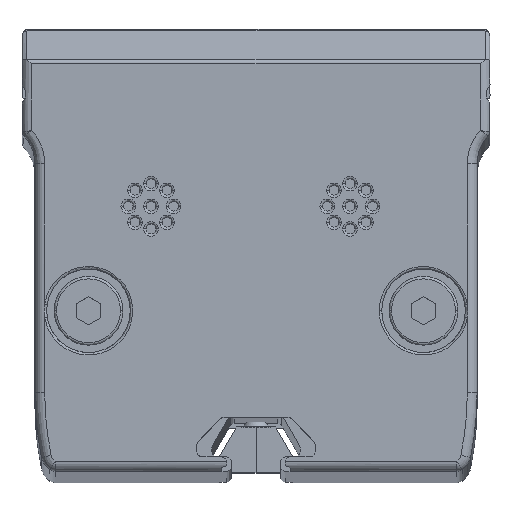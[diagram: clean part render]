
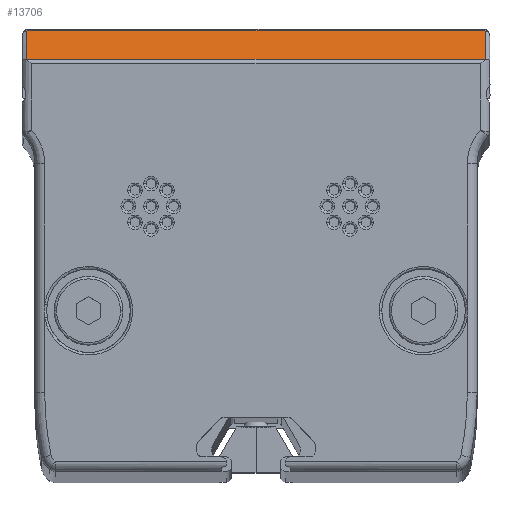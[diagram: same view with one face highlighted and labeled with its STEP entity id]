
A CAD part, top view. The second image highlights one B-rep face of the part: STEP entity #13706.
In plain terms, the highlighted planar face has unit normal (0, 0.858, 0.514).
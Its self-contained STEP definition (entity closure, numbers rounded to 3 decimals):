
#1643 = CARTESIAN_POINT ( 'NONE',  ( 23.215, 22.429, 629.914 ) ) ;
#1780 = DIRECTION ( 'NONE',  ( 0., 0.514, -0.857 ) ) ;
#1839 =( BOUNDED_CURVE ( )  B_SPLINE_CURVE ( 3, ( #22001, #5820, #1643, #21712 ),
 .UNSPECIFIED., .F., .T. ) 
 B_SPLINE_CURVE_WITH_KNOTS ( ( 4, 4 ),
 ( 6.283, 6.283 ),
 .UNSPECIFIED. ) 
 CURVE ( )  GEOMETRIC_REPRESENTATION_ITEM ( )  RATIONAL_B_SPLINE_CURVE ( ( 1., 1., 1., 1. ) ) 
 REPRESENTATION_ITEM ( '' )  );
#1908 = EDGE_CURVE ( 'NONE', #20321, #6759, #14331, .T. ) ;
#2399 = PLANE ( 'NONE',  #16413 ) ;
#2775 = EDGE_CURVE ( 'NONE', #8169, #11228, #26623, .T. ) ;
#3579 = CARTESIAN_POINT ( 'NONE',  ( 23.315, 19.287, 635.15 ) ) ;
#4667 = ORIENTED_EDGE ( 'NONE', *, *, #2775, .T. ) ;
#4815 = CARTESIAN_POINT ( 'NONE',  ( -23.215, 22.429, 629.914 ) ) ;
#5007 = VERTEX_POINT ( 'NONE', #8389 ) ;
#5820 = CARTESIAN_POINT ( 'NONE',  ( 23.215, 22.429, 629.914 ) ) ;
#6078 = CARTESIAN_POINT ( 'NONE',  ( -23.215, 22.429, 629.914 ) ) ;
#6759 = VERTEX_POINT ( 'NONE', #9811 ) ;
#6794 = VECTOR ( 'NONE', #1780, 1000. ) ;
#6876 = CARTESIAN_POINT ( 'NONE',  ( 23.82, 19.433, 634.907 ) ) ;
#7237 = EDGE_CURVE ( 'NONE', #6759, #8169, #14515, .T. ) ;
#7617 = EDGE_CURVE ( 'NONE', #5007, #21656, #15291, .T. ) ;
#8169 = VERTEX_POINT ( 'NONE', #16745 ) ;
#8389 = CARTESIAN_POINT ( 'NONE',  ( 23.315, 22.329, 630.08 ) ) ;
#8538 = CARTESIAN_POINT ( 'NONE',  ( 23.315, 22.329, 630.08 ) ) ;
#8637 = CARTESIAN_POINT ( 'NONE',  ( 23.215, 22.429, 629.914 ) ) ;
#9223 = EDGE_LOOP ( 'NONE', ( #4667, #22896, #10463, #26122, #9565, #16072, #26035 ) ) ;
#9565 = ORIENTED_EDGE ( 'NONE', *, *, #19956, .T. ) ;
#9811 = CARTESIAN_POINT ( 'NONE',  ( -23.315, 22.329, 630.08 ) ) ;
#10270 = CARTESIAN_POINT ( 'NONE',  ( -23.215, 22.429, 629.914 ) ) ;
#10463 = ORIENTED_EDGE ( 'NONE', *, *, #7617, .T. ) ;
#10991 = LINE ( 'NONE', #3579, #6794 ) ;
#11228 = VERTEX_POINT ( 'NONE', #26232 ) ;
#13136 = CARTESIAN_POINT ( 'NONE',  ( 23.274, 22.429, 629.914 ) ) ;
#13298 = VECTOR ( 'NONE', #13551, 1000. ) ;
#13551 = DIRECTION ( 'NONE',  ( 1., 0., 0. ) ) ;
#13706 = ADVANCED_FACE ( 'NONE', ( #16070 ), #2399, .F. ) ;
#13781 = VERTEX_POINT ( 'NONE', #28059 ) ;
#14331 =( BOUNDED_CURVE ( )  B_SPLINE_CURVE ( 3, ( #6078, #15409, #24460, #24177 ),
 .UNSPECIFIED., .F., .T. ) 
 B_SPLINE_CURVE_WITH_KNOTS ( ( 4, 4 ),
 ( 0., 1.571 ),
 .UNSPECIFIED. ) 
 CURVE ( )  GEOMETRIC_REPRESENTATION_ITEM ( )  RATIONAL_B_SPLINE_CURVE ( ( 1., 0.805, 0.805, 1. ) ) 
 REPRESENTATION_ITEM ( '' )  );
#14411 = LINE ( 'NONE', #10270, #26754 ) ;
#14515 = LINE ( 'NONE', #23567, #20921 ) ;
#15291 =( BOUNDED_CURVE ( )  B_SPLINE_CURVE ( 3, ( #8538, #26630, #13136, #26780 ),
 .UNSPECIFIED., .F., .T. ) 
 B_SPLINE_CURVE_WITH_KNOTS ( ( 4, 4 ),
 ( 4.712, 6.283 ),
 .UNSPECIFIED. ) 
 CURVE ( )  GEOMETRIC_REPRESENTATION_ITEM ( )  RATIONAL_B_SPLINE_CURVE ( ( 1., 0.805, 0.805, 1. ) ) 
 REPRESENTATION_ITEM ( '' )  );
#15409 = CARTESIAN_POINT ( 'NONE',  ( -23.274, 22.429, 629.914 ) ) ;
#16070 = FACE_OUTER_BOUND ( 'NONE', #9223, .T. ) ;
#16072 = ORIENTED_EDGE ( 'NONE', *, *, #1908, .T. ) ;
#16191 = EDGE_CURVE ( 'NONE', #11228, #5007, #10991, .T. ) ;
#16413 = AXIS2_PLACEMENT_3D ( 'NONE', #18003, #27047, #20519 ) ;
#16745 = CARTESIAN_POINT ( 'NONE',  ( -23.315, 19.433, 634.907 ) ) ;
#18003 = CARTESIAN_POINT ( 'NONE',  ( 23.82, 19.287, 635.15 ) ) ;
#19956 = EDGE_CURVE ( 'NONE', #13781, #20321, #14411, .T. ) ;
#20321 = VERTEX_POINT ( 'NONE', #4815 ) ;
#20519 = DIRECTION ( 'NONE',  ( 0., 0.514, -0.857 ) ) ;
#20921 = VECTOR ( 'NONE', #21344, 1000. ) ;
#21344 = DIRECTION ( 'NONE',  ( 0., -0.514, 0.857 ) ) ;
#21486 = EDGE_CURVE ( 'NONE', #21656, #13781, #1839, .T. ) ;
#21656 = VERTEX_POINT ( 'NONE', #8637 ) ;
#21712 = CARTESIAN_POINT ( 'NONE',  ( 23.215, 22.429, 629.914 ) ) ;
#22001 = CARTESIAN_POINT ( 'NONE',  ( 23.215, 22.429, 629.914 ) ) ;
#22896 = ORIENTED_EDGE ( 'NONE', *, *, #16191, .T. ) ;
#23567 = CARTESIAN_POINT ( 'NONE',  ( -23.315, 19.287, 635.15 ) ) ;
#24059 = DIRECTION ( 'NONE',  ( -1., 0., 0. ) ) ;
#24177 = CARTESIAN_POINT ( 'NONE',  ( -23.315, 22.329, 630.08 ) ) ;
#24460 = CARTESIAN_POINT ( 'NONE',  ( -23.315, 22.387, 629.983 ) ) ;
#26035 = ORIENTED_EDGE ( 'NONE', *, *, #7237, .T. ) ;
#26122 = ORIENTED_EDGE ( 'NONE', *, *, #21486, .T. ) ;
#26232 = CARTESIAN_POINT ( 'NONE',  ( 23.315, 19.433, 634.907 ) ) ;
#26623 = LINE ( 'NONE', #6876, #13298 ) ;
#26630 = CARTESIAN_POINT ( 'NONE',  ( 23.315, 22.387, 629.983 ) ) ;
#26754 = VECTOR ( 'NONE', #24059, 1000. ) ;
#26780 = CARTESIAN_POINT ( 'NONE',  ( 23.215, 22.429, 629.914 ) ) ;
#27047 = DIRECTION ( 'NONE',  ( 0., -0.857, -0.514 ) ) ;
#28059 = CARTESIAN_POINT ( 'NONE',  ( 23.215, 22.429, 629.914 ) ) ;
